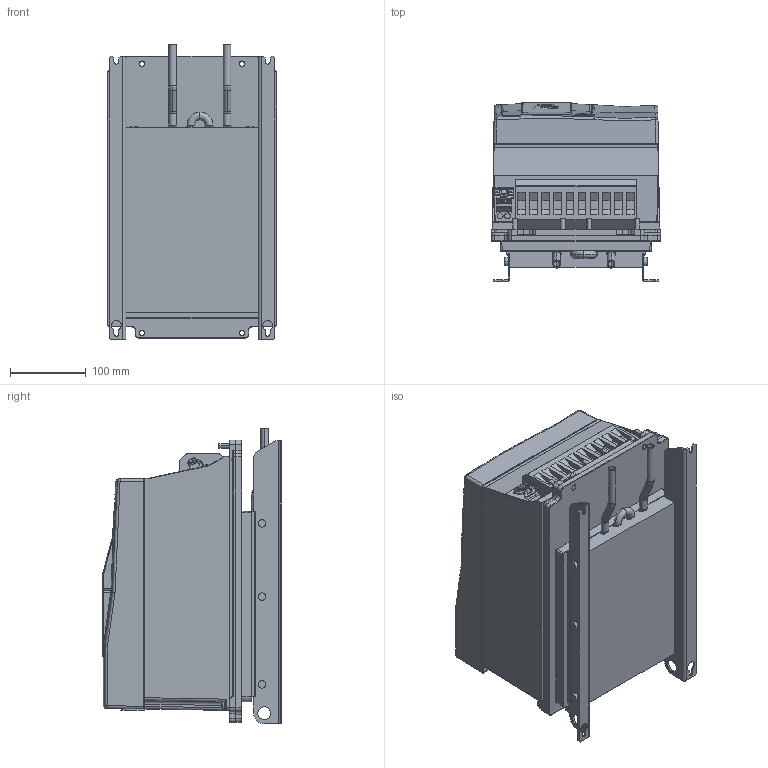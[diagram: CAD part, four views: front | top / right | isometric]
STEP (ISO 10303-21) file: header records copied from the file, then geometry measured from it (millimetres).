
FILE_DESCRIPTION (( 'STEP AP214' ), '1' );
FILE_NAME ('F6-4TW0-K000.STEP', '2020-12-09T12:25:07', ( '' ), ( '' ), 'SwSTEP 2.0', 'SolidWorks 2019', '' );
FILE_SCHEMA (( 'AUTOMOTIVE_DESIGN' ));
Length unit declared in the file: millimetre
Products named in the file (12): 10045828_000_Basis Leistungsteil TW0 (Kundenmodell); F6-4TW0-K000; 10035735_000_Kundenmodell; 10061645_000; 10058413_000; 10061644_000_Deckel (Kundenmodell); 10059764_000_Blindabdeckung (Kundenmodell); 10058448_000; 10032600_000_Kundenmodell; 10001537_000; 10061792_000; 10059765_000
Assembly tree (13 placements, depth 4):
  F6-4TW0-K000
    10045828_000_Basis Leistungsteil TW0 (Kundenmodell)
      10061792_000
    10032600_000_Kundenmodell
      10061644_000_Deckel (Kundenmodell)
        10061645_000
      10001537_000  x3
      10058448_000
    10035735_000_Kundenmodell
      10059764_000_Blindabdeckung (Kundenmodell)
        10059765_000
      10058413_000
Bounding box: 224 x 237.2 x 391.2 mm (x, y, z)
Volume: 14095148.2 mm3; surface area: 880243.9 mm2
Topology: 17 solids, 32 shells, 2595 faces, 6837 edges, 4346 vertices
Faces by surface type: plane 1115, cylinder 633, bspline 535, torus 165, cone 101, sphere 46
Entity records: 100217 total; most frequent: CARTESIAN_POINT 40961, ORIENTED_EDGE 13188, DIRECTION 10804, EDGE_CURVE 6594, VERTEX_POINT 4228, AXIS2_PLACEMENT_3D 3626, LINE 3552, VECTOR 3552
